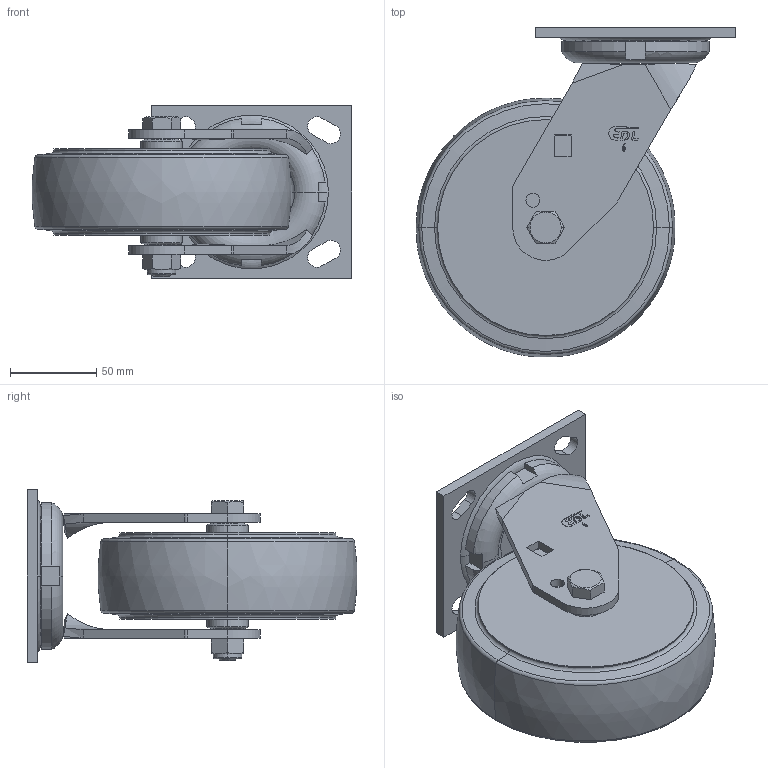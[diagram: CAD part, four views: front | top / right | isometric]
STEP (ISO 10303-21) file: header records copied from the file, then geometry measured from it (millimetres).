
FILE_DESCRIPTION((''),'2;1');
FILE_NAME('73116-736-86_ASM','2020-11-27T',('lenovo'),(''),'PRO/ENGINEER BY PARAMETRIC TECHNOLOGY CORPORATION, 2010280','PRO/ENGINEER BY PARAMETRIC TECHNOLOGY CORPORATION, 2010280','');
FILE_SCHEMA(('CONFIG_CONTROL_DESIGN'));
Length unit declared in the file: millimetre
Products named in the file (8): 7310-201; 7310-211; 7316-353; 7316-311_ASM; 736-86; 7010-33; 7010-34; 73116-736-86_ASM
Assembly tree (7 placements, depth 3):
  73116-736-86_ASM
    7310-201
    7316-311_ASM
      7310-211
      7316-353
    736-86
    7010-33
    7010-34
Bounding box: 184.83 x 190.83 x 100 mm (x, y, z)
Volume: 1043401 mm3; surface area: 132778.5 mm2
Topology: 7 solids, 7 shells, 313 faces, 761 edges, 478 vertices
Faces by surface type: plane 160, cylinder 67, torus 54, cone 22, bspline 10
Entity records: 9878 total; most frequent: CARTESIAN_POINT 2238, DIRECTION 1603, ORIENTED_EDGE 1522, EDGE_CURVE 761, AXIS2_PLACEMENT_3D 576, VERTEX_POINT 478, VECTOR 451, LINE 451
